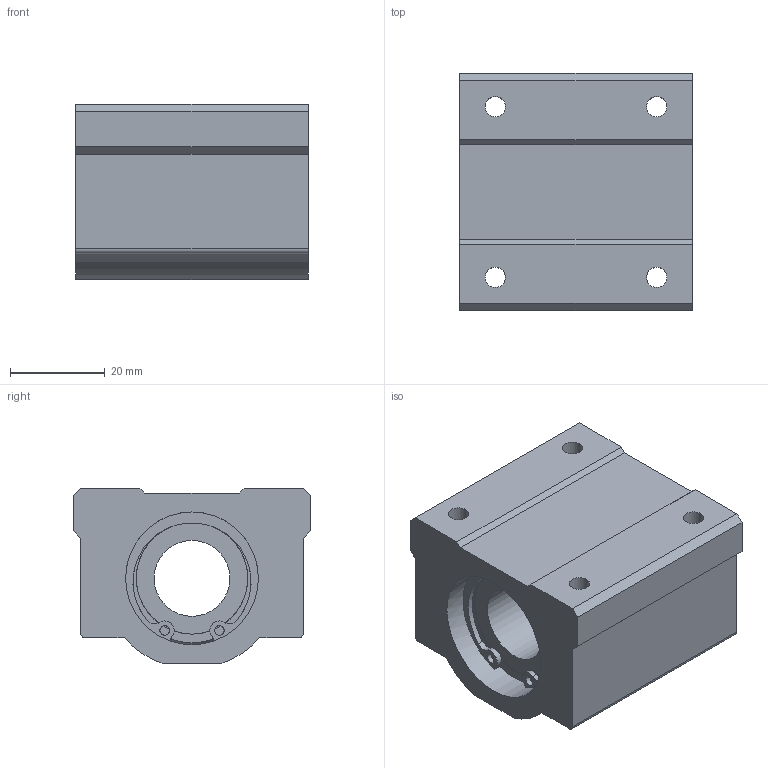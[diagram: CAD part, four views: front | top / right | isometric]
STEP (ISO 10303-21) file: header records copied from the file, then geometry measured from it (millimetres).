
FILE_DESCRIPTION((''),'2;1');
FILE_NAME('D:\製品 (図面)\カタログ用3D\リニアベアリング関連(改)\STEP形式\LH\LH16.stp','2010-01-25T10:15:40',('Tsuchiya'),(''),'Autodesk Inventor 10','Autodesk Inventor 10','');
FILE_SCHEMA(('AUTOMOTIVE_DESIGN { 1 0 10303 214 1 1 1 1 }'));
Length unit declared in the file: millimetre
Products named in the file (1): LH16
Bounding box: 49 x 50 x 37 mm (x, y, z)
Volume: 62135.3 mm3; surface area: 16536.5 mm2
Topology: 1 solids, 3 shells, 81 faces, 223 edges, 142 vertices
Faces by surface type: plane 41, cylinder 20, bspline 18, torus 2
Full cylindrical faces by diameter (mm): 2 x2, 16 x1, 23.5 x2, 26.6 x2, 28 x4
Entity records: 2548 total; most frequent: CARTESIAN_POINT 598, DIRECTION 416, ORIENTED_EDGE 368, EDGE_CURVE 184, AXIS2_PLACEMENT_3D 168, VERTEX_POINT 124, EDGE_LOOP 122, CIRCLE 104
